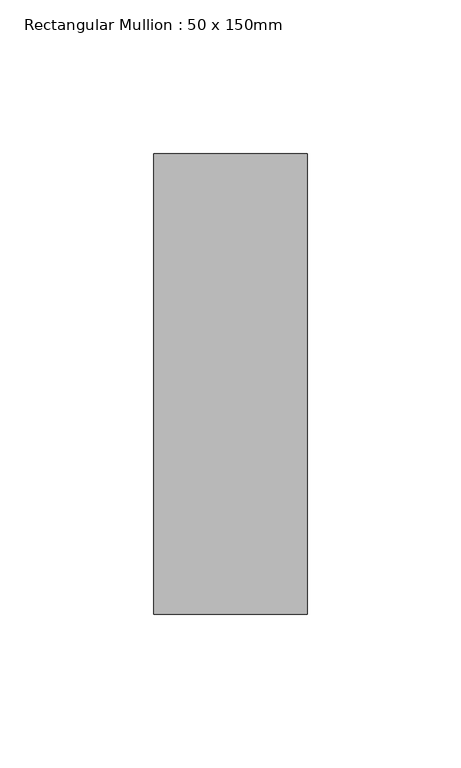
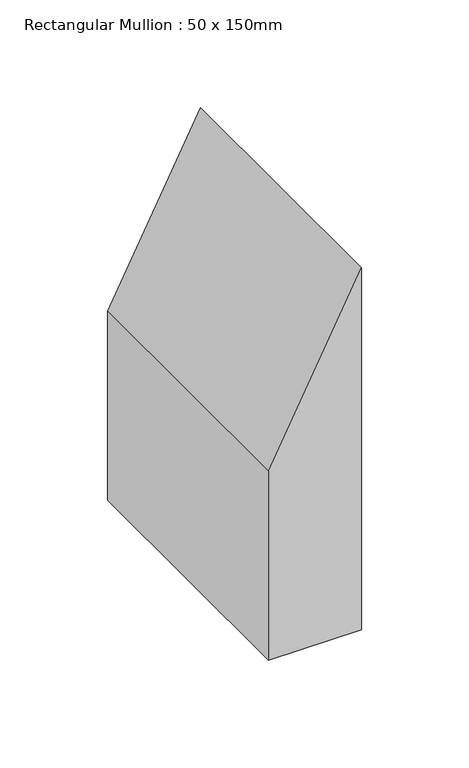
"""IFC4 building model written with IfcOpenShell, lengths in millimetres: member geometry, Rectangular Mullion : 50 x 150mm."""

from ifc_helpers import new_model, si_unit, frame, origin, place, context, project, spatial, polyline, outline, extrude, source, transform, mapped, element, save


def rectangular_mullion_50_x_150mm_fa7ecc48(model_context):
    return source(origin(), model_context, "Body", "SweptSolid", [
        extrude(outline(polyline([(0.0, 0.0), (-98.1305253, -50.0), (-205.4643445, -50.0), (-205.4643445, 0.0), (0.0, 0.0)])), frame((0.0, -75.0, 0.0), z_axis=(0.0, 1.0, 0.0), x_axis=(0.0, 0.0, 1.0)), (0.0, 0.0, 1.0), 150.0),
    ])


if __name__ == "__main__":
    model = new_model("IFC4")
    model_context = context("Model", 3, world=origin())
    ifc_project = project(units=[si_unit("LENGTHUNIT", "METRE", prefix="MILLI")], contexts=[model_context])
    site = spatial("IfcSite", under=ifc_project)
    building = spatial("IfcBuilding", under=site)
    placement = place(None, origin())
    rectangular_mullion_50_x_150mm_shape = rectangular_mullion_50_x_150mm_fa7ecc48(model_context)
    element("IfcMember", 1, ObjectType="Rectangular Mullion : 50 x 150mm", at=placement, inside=building, context=model_context, shape_type="MappedRepresentation", body=[
        mapped(rectangular_mullion_50_x_150mm_shape, transform((0.0, 0.0, 0.0), x_axis=(1.0, 0.0, 0.0), y_axis=(0.0, 1.0, 0.0), z_axis=(0.0, 0.0, 1.0))),
    ])
    save(model, "model.ifc")
